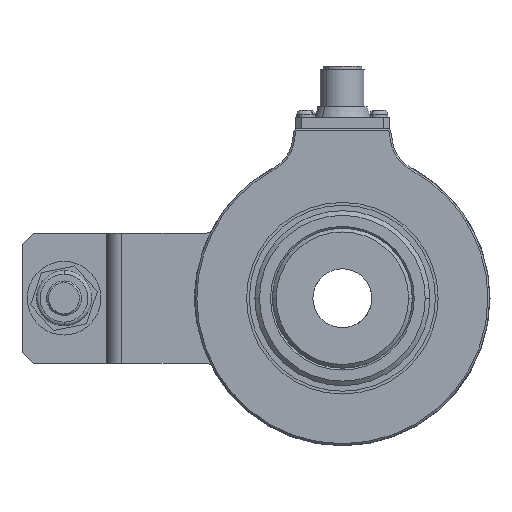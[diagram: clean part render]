
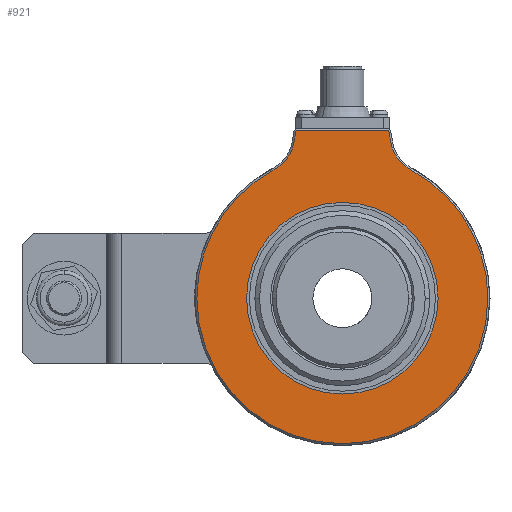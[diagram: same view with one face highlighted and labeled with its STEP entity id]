
A CAD part, left-side view. The second image highlights one B-rep face of the part: STEP entity #921.
In plain terms, the highlighted planar face has unit normal (-1, 0, 0).
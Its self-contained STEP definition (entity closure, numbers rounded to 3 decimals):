
#598 = FACE_OUTER_BOUND ( 'NONE', #24236, .T. ) ;
#637 = DIRECTION ( 'NONE',  ( 0., -1., 0. ) ) ;
#762 = DIRECTION ( 'NONE',  ( 0., -1., 0. ) ) ;
#809 = DIRECTION ( 'NONE',  ( 0., -1., 0. ) ) ;
#921 = ADVANCED_FACE ( 'NONE', ( #598, #3015 ), #22716, .T. ) ;
#1424 = ORIENTED_EDGE ( 'NONE', *, *, #2352, .T. ) ;
#1768 = EDGE_CURVE ( 'NONE', #20849, #26610, #11337, .T. ) ;
#1879 = ORIENTED_EDGE ( 'NONE', *, *, #9929, .T. ) ;
#2196 = ORIENTED_EDGE ( 'NONE', *, *, #8933, .T. ) ;
#2259 = CARTESIAN_POINT ( 'NONE',  ( -26., 12.58, 45.5 ) ) ;
#2352 = EDGE_CURVE ( 'NONE', #4563, #19284, #4545, .T. ) ;
#2838 = CARTESIAN_POINT ( 'NONE',  ( -26., 21.188, -3.317 ) ) ;
#2928 = CARTESIAN_POINT ( 'NONE',  ( -26., 0., 0. ) ) ;
#3015 = FACE_BOUND ( 'NONE', #7886, .T. ) ;
#3046 = CARTESIAN_POINT ( 'NONE',  ( -26., 26., 0. ) ) ;
#3197 = AXIS2_PLACEMENT_3D ( 'NONE', #24986, #5564, #762 ) ;
#3421 = CARTESIAN_POINT ( 'NONE',  ( -26., -23.482, 44.143 ) ) ;
#3552 = ORIENTED_EDGE ( 'NONE', *, *, #1768, .T. ) ;
#3660 = EDGE_CURVE ( 'NONE', #17953, #4563, #17221, .T. ) ;
#3670 = CARTESIAN_POINT ( 'NONE',  ( -26., 39.5, 0. ) ) ;
#4002 = LINE ( 'NONE', #19146, #6062 ) ;
#4020 = ORIENTED_EDGE ( 'NONE', *, *, #17068, .T. ) ;
#4545 = CIRCLE ( 'NONE', #14966, 39.5 ) ;
#4563 = VERTEX_POINT ( 'NONE', #12972 ) ;
#5080 = VERTEX_POINT ( 'NONE', #24012 ) ;
#5192 = CARTESIAN_POINT ( 'NONE',  ( -26., -18.551, 34.873 ) ) ;
#5415 = CARTESIAN_POINT ( 'NONE',  ( -26., 40., 0. ) ) ;
#5455 = DIRECTION ( 'NONE',  ( -1., 0., 0. ) ) ;
#5564 = DIRECTION ( 'NONE',  ( -1., 0., 0. ) ) ;
#5633 = AXIS2_PLACEMENT_3D ( 'NONE', #10112, #9693, #11844 ) ;
#6062 = VECTOR ( 'NONE', #10378, 1000. ) ;
#6082 = CIRCLE ( 'NONE', #5633, 10.5 ) ;
#6266 = EDGE_CURVE ( 'NONE', #11412, #22836, #4002, .T. ) ;
#6304 = AXIS2_PLACEMENT_3D ( 'NONE', #5415, #13792, #22575 ) ;
#6346 = CIRCLE ( 'NONE', #22193, 26. ) ;
#7886 = EDGE_LOOP ( 'NONE', ( #3552, #13954 ) ) ;
#8077 = CIRCLE ( 'NONE', #20294, 39.5 ) ;
#8129 = EDGE_CURVE ( 'NONE', #19284, #5080, #13833, .T. ) ;
#8933 = EDGE_CURVE ( 'NONE', #5080, #11412, #27691, .T. ) ;
#9272 = DIRECTION ( 'NONE',  ( 0., 1., 0. ) ) ;
#9693 = DIRECTION ( 'NONE',  ( 1., 0., 0. ) ) ;
#9929 = EDGE_CURVE ( 'NONE', #21977, #17953, #8077, .T. ) ;
#10112 = CARTESIAN_POINT ( 'NONE',  ( -26., 23.482, 44.143 ) ) ;
#10378 = DIRECTION ( 'NONE',  ( 0., 1., 0. ) ) ;
#10698 = ORIENTED_EDGE ( 'NONE', *, *, #8129, .T. ) ;
#11051 = ORIENTED_EDGE ( 'NONE', *, *, #19738, .T. ) ;
#11181 = EDGE_CURVE ( 'NONE', #26610, #20849, #6346, .T. ) ;
#11337 = CIRCLE ( 'NONE', #26272, 26. ) ;
#11412 = VERTEX_POINT ( 'NONE', #23284 ) ;
#11844 = DIRECTION ( 'NONE',  ( 0., -1., 0. ) ) ;
#11989 = CARTESIAN_POINT ( 'NONE',  ( -26., 0., 0. ) ) ;
#12337 = DIRECTION ( 'NONE',  ( 0., 1., 0. ) ) ;
#12710 = CARTESIAN_POINT ( 'NONE',  ( -26., -26., 0. ) ) ;
#12882 = CARTESIAN_POINT ( 'NONE',  ( -26., 0., 0. ) ) ;
#12972 = CARTESIAN_POINT ( 'NONE',  ( -26., -39.5, 0. ) ) ;
#13118 = VECTOR ( 'NONE', #26817, 1000. ) ;
#13792 = DIRECTION ( 'NONE',  ( -1., 0., 0. ) ) ;
#13833 = CIRCLE ( 'NONE', #17003, 10.5 ) ;
#13954 = ORIENTED_EDGE ( 'NONE', *, *, #11181, .T. ) ;
#14319 = VECTOR ( 'NONE', #19013, 1000. ) ;
#14966 = AXIS2_PLACEMENT_3D ( 'NONE', #11989, #5455, #637 ) ;
#15802 = CARTESIAN_POINT ( 'NONE',  ( -26., 0., 0. ) ) ;
#16998 = ORIENTED_EDGE ( 'NONE', *, *, #3660, .T. ) ;
#17003 = AXIS2_PLACEMENT_3D ( 'NONE', #3421, #18295, #22556 ) ;
#17054 = CARTESIAN_POINT ( 'NONE',  ( -26., -18.776, 10.364 ) ) ;
#17068 = EDGE_CURVE ( 'NONE', #22836, #27420, #26523, .T. ) ;
#17221 = CIRCLE ( 'NONE', #3197, 39.5 ) ;
#17953 = VERTEX_POINT ( 'NONE', #3670 ) ;
#18295 = DIRECTION ( 'NONE',  ( 1., 0., 0. ) ) ;
#18512 = DIRECTION ( 'NONE',  ( -1., 0., 0. ) ) ;
#19013 = DIRECTION ( 'NONE',  ( 0., 0.174, 0.985 ) ) ;
#19146 = CARTESIAN_POINT ( 'NONE',  ( -26., 40., 45.5 ) ) ;
#19284 = VERTEX_POINT ( 'NONE', #5192 ) ;
#19738 = EDGE_CURVE ( 'NONE', #27420, #21977, #6082, .T. ) ;
#20294 = AXIS2_PLACEMENT_3D ( 'NONE', #2928, #18512, #809 ) ;
#20849 = VERTEX_POINT ( 'NONE', #3046 ) ;
#21037 = CARTESIAN_POINT ( 'NONE',  ( -26., 18.551, 34.873 ) ) ;
#21975 = CARTESIAN_POINT ( 'NONE',  ( -26., 13.141, 42.32 ) ) ;
#21977 = VERTEX_POINT ( 'NONE', #21037 ) ;
#22193 = AXIS2_PLACEMENT_3D ( 'NONE', #15802, #24442, #9272 ) ;
#22556 = DIRECTION ( 'NONE',  ( 0., -1., 0. ) ) ;
#22575 = DIRECTION ( 'NONE',  ( 0., -1., 0. ) ) ;
#22716 = PLANE ( 'NONE',  #6304 ) ;
#22836 = VERTEX_POINT ( 'NONE', #2259 ) ;
#23274 = ORIENTED_EDGE ( 'NONE', *, *, #6266, .T. ) ;
#23284 = CARTESIAN_POINT ( 'NONE',  ( -26., -12.58, 45.5 ) ) ;
#24012 = CARTESIAN_POINT ( 'NONE',  ( -26., -13.141, 42.32 ) ) ;
#24236 = EDGE_LOOP ( 'NONE', ( #2196, #23274, #4020, #11051, #1879, #16998, #1424, #10698 ) ) ;
#24442 = DIRECTION ( 'NONE',  ( 1., 0., 0. ) ) ;
#24986 = CARTESIAN_POINT ( 'NONE',  ( -26., 0., 0. ) ) ;
#25367 = DIRECTION ( 'NONE',  ( 1., 0., 0. ) ) ;
#26272 = AXIS2_PLACEMENT_3D ( 'NONE', #12882, #25367, #12337 ) ;
#26523 = LINE ( 'NONE', #2838, #13118 ) ;
#26610 = VERTEX_POINT ( 'NONE', #12710 ) ;
#26817 = DIRECTION ( 'NONE',  ( 0., 0.174, -0.985 ) ) ;
#27420 = VERTEX_POINT ( 'NONE', #21975 ) ;
#27691 = LINE ( 'NONE', #17054, #14319 ) ;
